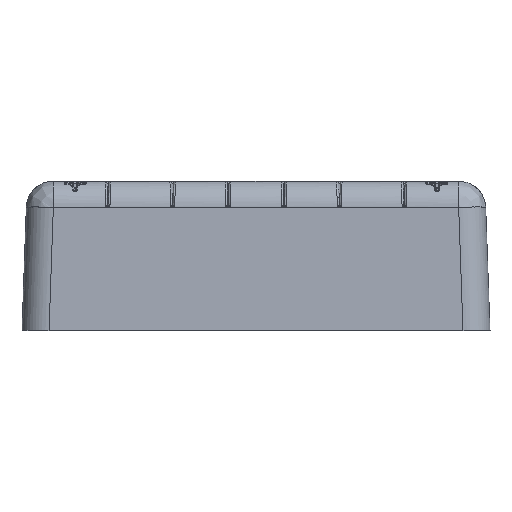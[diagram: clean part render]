
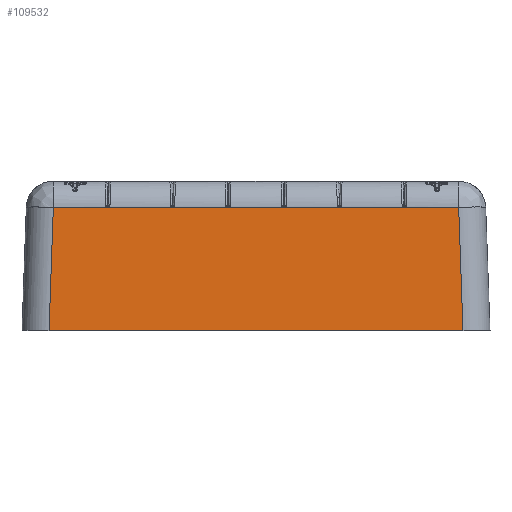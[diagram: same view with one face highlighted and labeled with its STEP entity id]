
A CAD part, top view. The second image highlights one B-rep face of the part: STEP entity #109532.
In plain terms, the highlighted planar face has unit normal (0, 0.035, 0.999).
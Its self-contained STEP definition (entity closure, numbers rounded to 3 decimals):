
#7576 = DIRECTION ( 'NONE',  ( -1., 0., 0. ) ) ;
#7587 = VECTOR ( 'NONE', #7576, 39.37 ) ;
#7588 = CARTESIAN_POINT ( 'NONE',  ( 0., 4.976, 4.984 ) ) ;
#7589 = LINE ( 'NONE', #7588, #7587 ) ;
#7591 = CARTESIAN_POINT ( 'NONE',  ( -8.202, 4.976, 4.984 ) ) ;
#7818 = CARTESIAN_POINT ( 'NONE',  ( 8.202, 4.976, 4.984 ) ) ;
#40912 = ORIENTED_EDGE ( 'NONE', *, *, #109392, .T. ) ;
#109330 = ORIENTED_EDGE ( 'NONE', *, *, #115243, .T. ) ;
#109380 = VERTEX_POINT ( 'NONE', #148406 ) ;
#109392 = EDGE_CURVE ( 'NONE', #109380, #115329, #148571, .T. ) ;
#109395 = EDGE_LOOP ( 'NONE', ( #109535, #109543, #40912, #109330 ) ) ;
#109532 = ADVANCED_FACE ( 'NONE', ( #149249 ), #149248, .T. ) ;
#109535 = ORIENTED_EDGE ( 'NONE', *, *, #109538, .T. ) ;
#109538 = EDGE_CURVE ( 'NONE', #115237, #109541, #149325, .T. ) ;
#109541 = VERTEX_POINT ( 'NONE', #149321 ) ;
#109543 = ORIENTED_EDGE ( 'NONE', *, *, #109546, .F. ) ;
#109546 = EDGE_CURVE ( 'NONE', #109380, #109541, #149394, .T. ) ;
#115237 = VERTEX_POINT ( 'NONE', #7591 ) ;
#115243 = EDGE_CURVE ( 'NONE', #115329, #115237, #7589, .T. ) ;
#115329 = VERTEX_POINT ( 'NONE', #7818 ) ;
#148406 = CARTESIAN_POINT ( 'NONE',  ( 8.376, 0., 5.157 ) ) ;
#148567 = CARTESIAN_POINT ( 'NONE',  ( 8.202, 4.976, 4.984 ) ) ;
#148568 = CARTESIAN_POINT ( 'NONE',  ( 8.26, 3.317, 5.042 ) ) ;
#148569 = CARTESIAN_POINT ( 'NONE',  ( 8.318, 1.659, 5.099 ) ) ;
#148570 = CARTESIAN_POINT ( 'NONE',  ( 8.376, 0., 5.157 ) ) ;
#148571 = B_SPLINE_CURVE_WITH_KNOTS ( 'NONE', 3,
 ( #148570, #148569, #148568, #148567 ),
 .UNSPECIFIED., .F., .F.,
 ( 4, 4 ),
 ( 0., 1. ),
 .UNSPECIFIED. ) ;
#149243 = DIRECTION ( 'NONE',  ( 0., -0.999, 0.035 ) ) ;
#149244 = DIRECTION ( 'NONE',  ( 0., 0.035, 0.999 ) ) ;
#149245 = CARTESIAN_POINT ( 'NONE',  ( -8.476, 4.976, 4.984 ) ) ;
#149246 = AXIS2_PLACEMENT_3D ( 'NONE', #149245, #149244, #149243 ) ;
#149248 = PLANE ( 'NONE',  #149246 ) ;
#149249 = FACE_OUTER_BOUND ( 'NONE', #109395, .T. ) ;
#149321 = CARTESIAN_POINT ( 'NONE',  ( -8.376, 0., 5.157 ) ) ;
#149322 = DIRECTION ( 'NONE',  ( -0.035, -0.999, 0.035 ) ) ;
#149323 = VECTOR ( 'NONE', #149322, 39.37 ) ;
#149324 = CARTESIAN_POINT ( 'NONE',  ( -8.289, 2.465, 5.071 ) ) ;
#149325 = LINE ( 'NONE', #149324, #149323 ) ;
#149391 = DIRECTION ( 'NONE',  ( -1., 0., 0. ) ) ;
#149392 = VECTOR ( 'NONE', #149391, 39.37 ) ;
#149393 = CARTESIAN_POINT ( 'NONE',  ( -0.001, 0., 5.157 ) ) ;
#149394 = LINE ( 'NONE', #149393, #149392 ) ;
